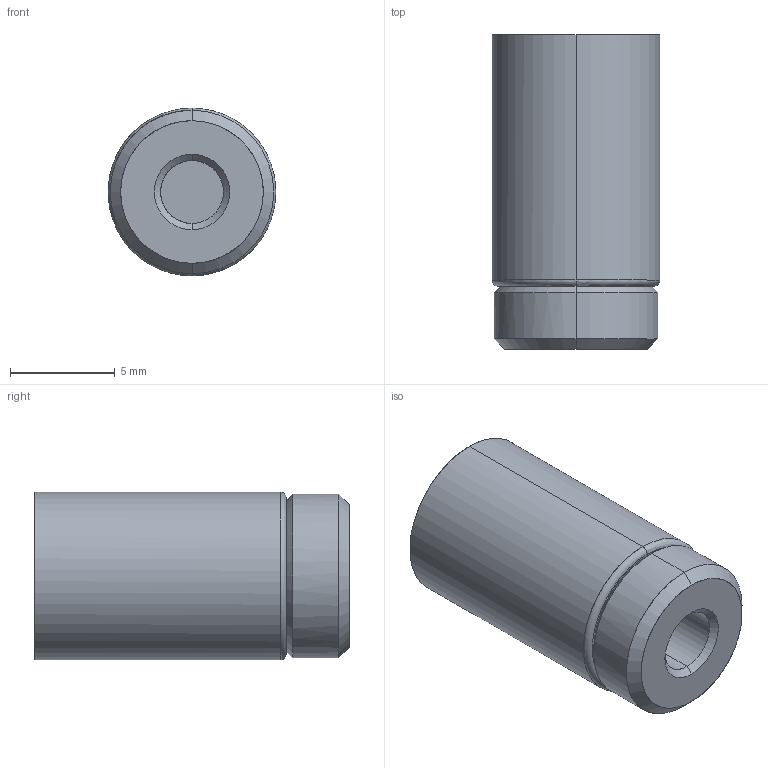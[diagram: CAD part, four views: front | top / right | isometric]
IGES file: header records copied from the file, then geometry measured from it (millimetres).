
Start section: START RECORD GO HERE.
Global section: file name: vh086515.igs; native system: DASSAULT SYSTEMES CATIA V5 R20 - www.3ds.com; preprocessor: CATIA Version 5 Release 20 ; author: Utente; organization: NB04-ASUS; date: 20201107.134523; units: millimetre
Bounding box: 8 x 15 x 8 mm (x, y, z)
Surface area: 1038.5 mm2 (no closed solid volume)
Topology: 0 solids, 0 shells, 72 faces, 318 edges, 318 vertices
Faces by surface type: revolution 38, plane 34
